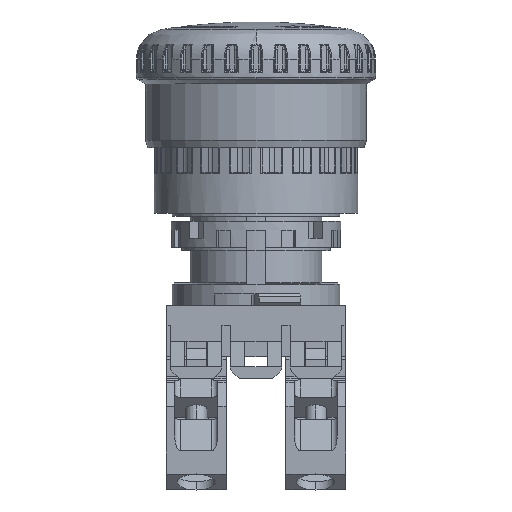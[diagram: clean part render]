
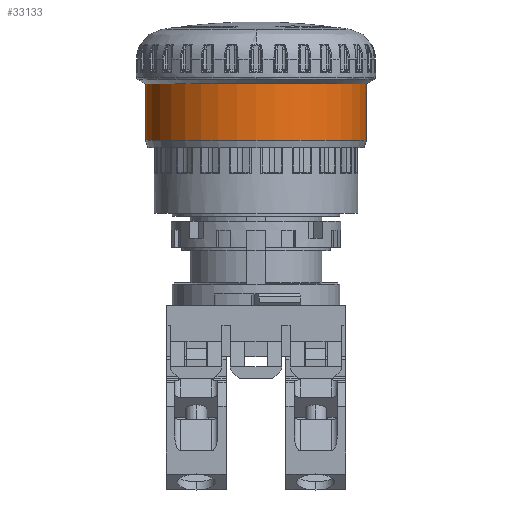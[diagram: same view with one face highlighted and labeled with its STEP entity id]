
A CAD part, front view. The second image highlights one B-rep face of the part: STEP entity #33133.
In plain terms, the highlighted cylindrical face has radius 18.5 mm (diameter 37 mm), a partial arc.
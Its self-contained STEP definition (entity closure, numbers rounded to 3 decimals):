
#2666 = CARTESIAN_POINT ( 'NONE',  ( -18.5, 0., 12.2 ) ) ;
#2667 = CARTESIAN_POINT ( 'NONE',  ( 18.5, 0., 12.2 ) ) ;
#2668 = CARTESIAN_POINT ( 'NONE',  ( -18.5, 0., 21.634 ) ) ;
#2669 = CARTESIAN_POINT ( 'NONE',  ( 18.5, 0., 21.634 ) ) ;
#3387 = LINE ( 'NONE', #3388, #8353 ) ;
#3388 = CARTESIAN_POINT ( 'NONE',  ( -18.5, 0., 12.2 ) ) ;
#3389 = DIRECTION ( 'NONE',  ( 0., 0., 1. ) ) ;
#3393 = LINE ( 'NONE', #3394, #8355 ) ;
#3394 = CARTESIAN_POINT ( 'NONE',  ( 18.5, 0., 12.2 ) ) ;
#3395 = DIRECTION ( 'NONE',  ( 0., 0., 1. ) ) ;
#8353 = VECTOR ( 'NONE', #3389, 1000. ) ;
#8355 = VECTOR ( 'NONE', #3395, 1000. ) ;
#11751 = CIRCLE ( 'NONE', #60341, 18.5 ) ;
#11792 = CIRCLE ( 'NONE', #60342, 18.5 ) ;
#21117 = CARTESIAN_POINT ( 'NONE',  ( 0., 0., 12.2 ) ) ;
#21118 = DIRECTION ( 'NONE',  ( 0., 0., 1. ) ) ;
#21119 = DIRECTION ( 'NONE',  ( 1., 0., 0. ) ) ;
#21353 = CARTESIAN_POINT ( 'NONE',  ( 0., 0., 21.634 ) ) ;
#21354 = DIRECTION ( 'NONE',  ( 0., 0., 1. ) ) ;
#21355 = DIRECTION ( 'NONE',  ( 0., 1., 0. ) ) ;
#21593 = CARTESIAN_POINT ( 'NONE',  ( 0., 0., 12.2 ) ) ;
#21597 = DIRECTION ( 'NONE',  ( 0., 0., 1. ) ) ;
#21598 = DIRECTION ( 'NONE',  ( 0., 1., 0. ) ) ;
#22641 = VERTEX_POINT ( 'NONE', #2666 ) ;
#22642 = VERTEX_POINT ( 'NONE', #2667 ) ;
#22643 = VERTEX_POINT ( 'NONE', #2668 ) ;
#22644 = VERTEX_POINT ( 'NONE', #2669 ) ;
#24512 = EDGE_CURVE ( 'NONE', #22641, #22643, #3387, .T. ) ;
#24515 = EDGE_CURVE ( 'NONE', #22642, #22644, #3393, .T. ) ;
#31835 = EDGE_LOOP ( 'NONE', ( #34761, #34763, #34762, #34764 ) ) ;
#33133 = ADVANCED_FACE ( 'NONE', ( #60243 ), #60248, .T. ) ;
#33285 = EDGE_CURVE ( 'NONE', #22643, #22644, #11751, .T. ) ;
#33464 = EDGE_CURVE ( 'NONE', #22641, #22642, #11792, .T. ) ;
#34761 = ORIENTED_EDGE ( 'NONE', *, *, #24512, .F. ) ;
#34762 = ORIENTED_EDGE ( 'NONE', *, *, #24515, .T. ) ;
#34763 = ORIENTED_EDGE ( 'NONE', *, *, #33464, .T. ) ;
#34764 = ORIENTED_EDGE ( 'NONE', *, *, #33285, .F. ) ;
#60243 = FACE_OUTER_BOUND ( 'NONE', #31835, .T. ) ;
#60247 = AXIS2_PLACEMENT_3D ( 'NONE', #21117, #21118, #21119 ) ;
#60248 = CYLINDRICAL_SURFACE ( 'NONE', #60247, 18.5 ) ;
#60341 = AXIS2_PLACEMENT_3D ( 'NONE', #21353, #21354, #21355 ) ;
#60342 = AXIS2_PLACEMENT_3D ( 'NONE', #21593, #21597, #21598 ) ;
